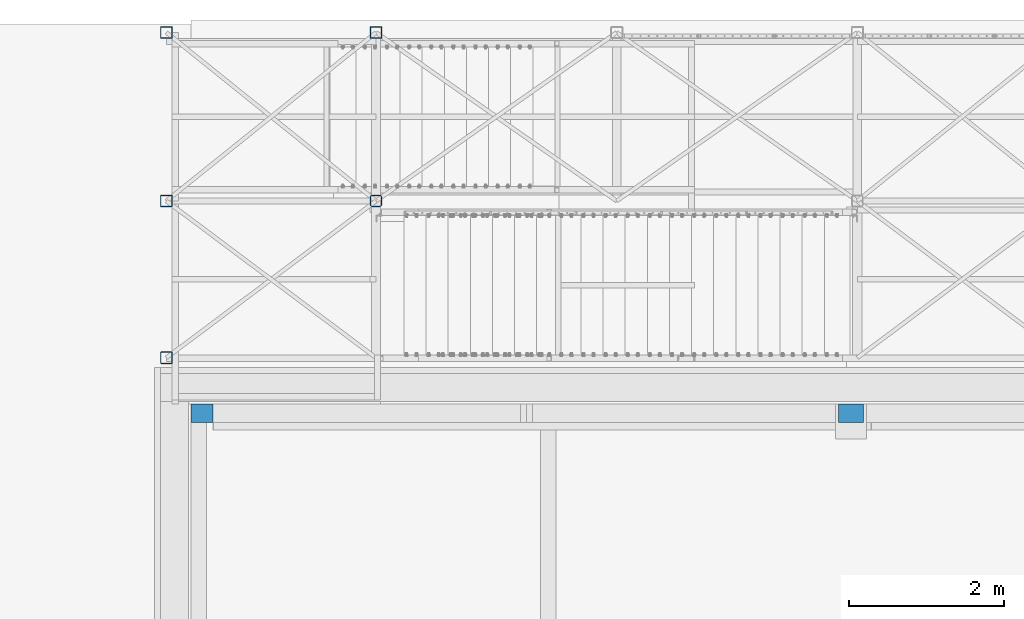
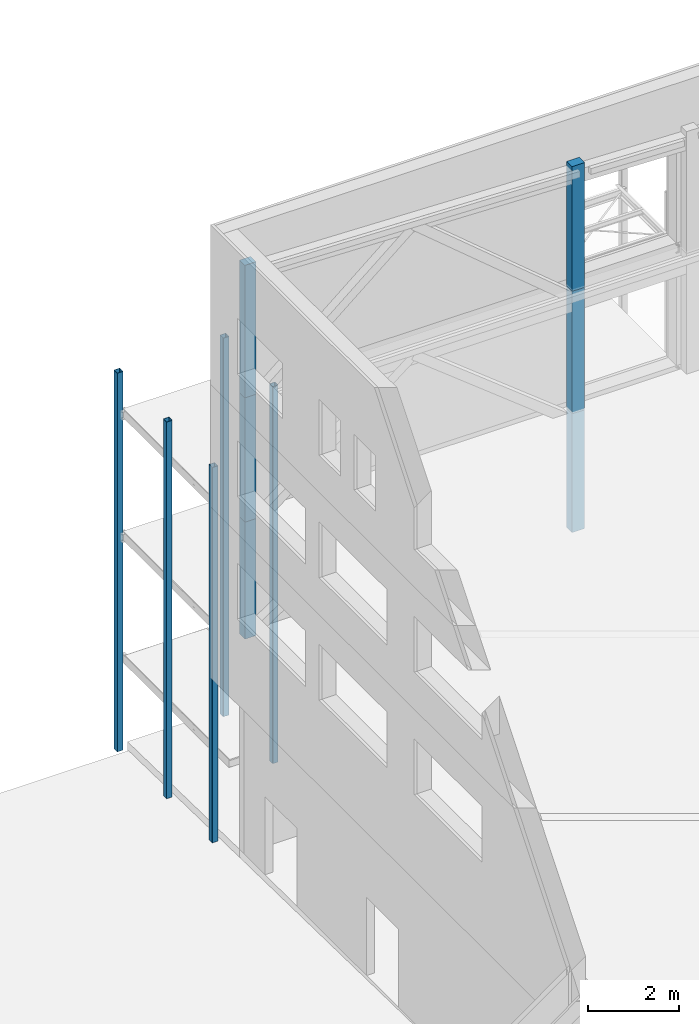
# One storey, part 9 of 78: 11 columns, 11 elements without a shape of their own.
"""IFC2X3 building model written with IfcOpenShell, lengths in millimetres."""

from ifc_helpers import new_model, si_unit, frame, origin_with_axes, origin_2d_with_axis, place, context, subcontext, project, spatial, rectangle, hollow_rectangle, extrude, material, type_object, element, aggregate, save


model = new_model("IFC2X3")

# Units and contexts
model_context = context("Model", 3, precision=1e-05, world=origin_with_axes())
body_context = subcontext(model_context, "Body", "Model", "MODEL_VIEW")
ifc_project = project(units=[si_unit("LENGTHUNIT", "METRE", prefix="MILLI"), si_unit("AREAUNIT", "SQUARE_METRE"), si_unit("VOLUMEUNIT", "CUBIC_METRE"), si_unit("MASSUNIT", "GRAM", prefix="KILO"), si_unit("TIMEUNIT", "SECOND"), si_unit("PLANEANGLEUNIT", "RADIAN"), si_unit("SOLIDANGLEUNIT", "STERADIAN"), si_unit("THERMODYNAMICTEMPERATUREUNIT", "DEGREE_CELSIUS"), si_unit("LUMINOUSINTENSITYUNIT", "LUMEN")], contexts=[model_context])

# Site, building, storey
site_placement = place(None, origin_with_axes())
site = spatial("IfcSite", under=ifc_project, at=site_placement, Name="Site", CompositionType="ELEMENT")
building_placement = place(site_placement, origin_with_axes())
building = spatial("IfcBuilding", under=site, at=building_placement, Name="Undefined", CompositionType="ELEMENT")
storey_placement = place(building_placement, origin_with_axes())
storey = spatial("IfcBuildingStorey", under=building, at=storey_placement, Name="Undefined", CompositionType="ELEMENT", Elevation=0.0)

# Assembly, column
assembly_1_placement = place(storey_placement, origin_with_axes())
assembly_1 = element("IfcElementAssembly", 1, at=assembly_1_placement, inside=storey, Name="POUTRE", AssemblyPlace="NOTDEFINED", PredefinedType="NOTDEFINED")
ifc_material_1 = material(Name="TIMBER/CHENE")
column_type_1 = type_object("IfcColumnType", Name="320*240", PredefinedType="NOTDEFINED")
column_1_placement = place(assembly_1_placement, frame((1416.56799316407, 28014.9986327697, 153350.039673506), z_axis=(0.0, 0.0, 1.0), x_axis=(-1.0, 0.0, 0.0)))
column_1 = element("IfcColumn", 2, at=column_1_placement, type_object=column_type_1, material=ifc_material_1, Name="POUTRE", ObjectType="320*240", context=body_context, shape_type="SweptSolid", body=[
    extrude(rectangle(XDim=240.0, YDim=320.0, at=origin_2d_with_axis()), frame((0.0, 0.0, 3199.98874114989), z_axis=(0.0, 0.0, -1.0), x_axis=(0.0, 1.0, 0.0)), (0.0, 0.0, 1.0), 3199.99),
])
aggregate(assembly_1, [column_1])

assembly_2_placement = place(storey_placement, origin_with_axes())
assembly_2 = element("IfcElementAssembly", 3, at=assembly_2_placement, inside=storey, Name="POUTRE", AssemblyPlace="NOTDEFINED", PredefinedType="NOTDEFINED")
column_2_placement = place(assembly_2_placement, frame((1416.56807422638, 28014.998550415, 156550.033569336), z_axis=(0.0, 0.0, 1.0), x_axis=(-1.0, 0.0, 0.0)))
column_2 = element("IfcColumn", 4, at=column_2_placement, type_object=column_type_1, material=ifc_material_1, Name="POUTRE", ObjectType="320*240", context=body_context, shape_type="SweptSolid", body=[
    extrude(rectangle(XDim=240.0, YDim=320.0, at=origin_2d_with_axis()), frame((0.0, 0.0, 3300.00874114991), z_axis=(0.0, 0.0, -1.0), x_axis=(0.0, 1.0, 0.0)), (0.0, 0.0, 1.0), 3300.01),
])
aggregate(assembly_2, [column_2])

assembly_3_placement = place(storey_placement, origin_with_axes())
assembly_3 = element("IfcElementAssembly", 5, at=assembly_3_placement, inside=storey, Name="POUTRE", AssemblyPlace="NOTDEFINED", PredefinedType="NOTDEFINED")
column_3_placement = place(assembly_3_placement, frame((1416.56799316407, 28014.9986327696, 159850.040150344), z_axis=(0.0, 0.0, 1.0), x_axis=(-1.0, 0.0, 0.0)))
column_3 = element("IfcColumn", 6, at=column_3_placement, type_object=column_type_1, material=ifc_material_1, Name="POUTRE", ObjectType="320*240", context=body_context, shape_type="SweptSolid", body=[
    extrude(rectangle(XDim=240.0, YDim=320.0, at=origin_2d_with_axis()), frame((0.0, 0.0, 3359.9987411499), z_axis=(0.0, 0.0, -1.0), x_axis=(0.0, 1.0, 0.0)), (0.0, 0.0, 1.0), 3360.0),
])
aggregate(assembly_3, [column_3])

assembly_4_placement = place(storey_placement, origin_with_axes())
assembly_4 = element("IfcElementAssembly", 7, at=assembly_4_placement, inside=storey, Name="POUTRE", AssemblyPlace="NOTDEFINED", PredefinedType="NOTDEFINED")
column_type_2 = type_object("IfcColumnType", Name="280*240", PredefinedType="NOTDEFINED")
column_4_placement = place(assembly_4_placement, frame((-6943.43215942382, 28014.9986327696, 153400.039864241), z_axis=(0.0, 0.0, 1.0), x_axis=(-1.0, 0.0, 0.0)))
column_4 = element("IfcColumn", 8, at=column_4_placement, type_object=column_type_2, material=ifc_material_1, Name="POUTRE", ObjectType="280*240", context=body_context, shape_type="SweptSolid", body=[
    extrude(rectangle(XDim=240.0, YDim=280.0, at=origin_2d_with_axis()), frame((0.0, 0.0, 3149.9987411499), z_axis=(0.0, 0.0, -1.0), x_axis=(0.0, 1.0, 0.0)), (0.0, 0.0, 1.0), 3150.0),
])
aggregate(assembly_4, [column_4])

assembly_5_placement = place(storey_placement, origin_with_axes())
assembly_5 = element("IfcElementAssembly", 9, at=assembly_5_placement, inside=storey, Name="POUTRE", AssemblyPlace="NOTDEFINED", PredefinedType="NOTDEFINED")
column_5_placement = place(assembly_5_placement, frame((-6943.43215942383, 28014.9986327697, 156550.039959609), z_axis=(0.0, 0.0, 1.0), x_axis=(-1.0, 0.0, 0.0)))
column_5 = element("IfcColumn", 10, at=column_5_placement, type_object=column_type_2, material=ifc_material_1, Name="POUTRE", ObjectType="280*240", context=body_context, shape_type="SweptSolid", body=[
    extrude(rectangle(XDim=240.0, YDim=280.0, at=origin_2d_with_axis()), frame((0.0, 0.0, 3349.9987411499), z_axis=(0.0, 0.0, -1.0), x_axis=(0.0, 1.0, 0.0)), (0.0, 0.0, 1.0), 3350.0),
])
aggregate(assembly_5, [column_5])

assembly_6_placement = place(storey_placement, origin_with_axes())
assembly_6 = element("IfcElementAssembly", 11, at=assembly_6_placement, inside=storey, Name="POUTRE", AssemblyPlace="NOTDEFINED", PredefinedType="NOTDEFINED")
column_6_placement = place(assembly_6_placement, frame((-6943.43215942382, 28014.9986327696, 159900.040341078), z_axis=(0.0, 0.0, 1.0), x_axis=(-1.0, 0.0, 0.0)))
column_6 = element("IfcColumn", 12, at=column_6_placement, type_object=column_type_2, material=ifc_material_1, Name="POUTRE", ObjectType="280*240", context=body_context, shape_type="SweptSolid", body=[
    extrude(rectangle(XDim=240.0, YDim=280.0, at=origin_2d_with_axis()), frame((0.0, 0.0, 3569.9987411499), z_axis=(0.0, 0.0, -1.0), x_axis=(0.0, 1.0, 0.0)), (0.0, 0.0, 1.0), 3570.0),
])
aggregate(assembly_6, [column_6])

assembly_7_placement = place(storey_placement, origin_with_axes())
assembly_7 = element("IfcElementAssembly", 13, at=assembly_7_placement, inside=storey, Name="POTEAU", AssemblyPlace="NOTDEFINED", PredefinedType="RIGID_FRAME")
ifc_material_2 = material(Name="STEEL/S275JR")
column_type_3 = type_object("IfcColumnType", Name="TUBE-C-150*150*5", PredefinedType="NOTDEFINED")
column_7_placement = place(assembly_7_placement, frame((-4701.43, 32918.0, 147500.04), z_axis=(0.0, 0.0, 1.0), x_axis=(0.0, 1.0, 0.0)))
column_7 = element("IfcColumn", 14, at=column_7_placement, type_object=column_type_3, material=ifc_material_2, Name="POTEAU", ObjectType="TUBE-C-150*150*5", context=body_context, shape_type="SweptSolid", body=[
    extrude(hollow_rectangle(XDim=150.0, YDim=150.0, WallThickness=5.0, InnerFilletRadius=5.0, OuterFilletRadius=10.0, at=origin_2d_with_axis()), frame((0.0, 0.0, 10200.0), z_axis=(0.0, 0.0, -1.0), x_axis=(0.0, 1.0, 0.0)), (0.0, 0.0, 1.0), 10200.0),
])
aggregate(assembly_7, [column_7])

assembly_8_placement = place(storey_placement, origin_with_axes())
assembly_8 = element("IfcElementAssembly", 15, at=assembly_8_placement, inside=storey, Name="POTEAU", AssemblyPlace="NOTDEFINED", PredefinedType="RIGID_FRAME")
column_8_placement = place(assembly_8_placement, frame((-7401.43, 32918.0, 147500.04), z_axis=(0.0, 0.0, 1.0), x_axis=(0.0, 1.0, 0.0)))
column_8 = element("IfcColumn", 16, at=column_8_placement, type_object=column_type_3, material=ifc_material_2, Name="POTEAU", ObjectType="TUBE-C-150*150*5", context=body_context, shape_type="SweptSolid", body=[
    extrude(hollow_rectangle(XDim=150.0, YDim=150.0, WallThickness=5.0, InnerFilletRadius=5.0, OuterFilletRadius=10.0, at=origin_2d_with_axis()), frame((0.0, 0.0, 10200.0), z_axis=(0.0, 0.0, -1.0), x_axis=(0.0, 1.0, 0.0)), (0.0, 0.0, 1.0), 10200.0),
])
aggregate(assembly_8, [column_8])

assembly_9_placement = place(storey_placement, origin_with_axes())
assembly_9 = element("IfcElementAssembly", 17, at=assembly_9_placement, inside=storey, Name="POTEAU", AssemblyPlace="NOTDEFINED", PredefinedType="RIGID_FRAME")
column_9_placement = place(assembly_9_placement, frame((-7401.43, 30748.0, 147550.04), z_axis=(0.0, 0.0, 1.0), x_axis=(0.0, 1.0, 0.0)))
column_9 = element("IfcColumn", 18, at=column_9_placement, type_object=column_type_3, material=ifc_material_2, Name="POTEAU", ObjectType="TUBE-C-150*150*5", context=body_context, shape_type="SweptSolid", body=[
    extrude(hollow_rectangle(XDim=150.0, YDim=150.0, WallThickness=5.0, InnerFilletRadius=5.0, OuterFilletRadius=10.0, at=origin_2d_with_axis()), frame((0.0, 0.0, 10150.0), z_axis=(0.0, 0.0, -1.0), x_axis=(0.0, 1.0, 0.0)), (0.0, 0.0, 1.0), 10150.0),
])
aggregate(assembly_9, [column_9])

assembly_10_placement = place(storey_placement, origin_with_axes())
assembly_10 = element("IfcElementAssembly", 19, at=assembly_10_placement, inside=storey, Name="POTEAU", AssemblyPlace="NOTDEFINED", PredefinedType="RIGID_FRAME")
column_10_placement = place(assembly_10_placement, frame((-7401.43, 28728.0, 147590.04), z_axis=(0.0, 0.0, 1.0), x_axis=(0.0, 1.0, 0.0)))
column_10 = element("IfcColumn", 20, at=column_10_placement, type_object=column_type_3, material=ifc_material_2, Name="POTEAU", ObjectType="TUBE-C-150*150*5", context=body_context, shape_type="SweptSolid", body=[
    extrude(hollow_rectangle(XDim=150.0, YDim=150.0, WallThickness=5.0, InnerFilletRadius=5.0, OuterFilletRadius=10.0, at=origin_2d_with_axis()), frame((0.0, 0.0, 10110.0), z_axis=(0.0, 0.0, -1.0), x_axis=(0.0, 1.0, 0.0)), (0.0, 0.0, 1.0), 10110.0),
])
aggregate(assembly_10, [column_10])

assembly_11_placement = place(storey_placement, origin_with_axes())
assembly_11 = element("IfcElementAssembly", 21, at=assembly_11_placement, inside=storey, Name="POTEAU", AssemblyPlace="NOTDEFINED", PredefinedType="RIGID_FRAME")
column_type_4 = type_object("IfcColumnType", Name="TUBE-C-150*150*10", PredefinedType="NOTDEFINED")
column_11_placement = place(assembly_11_placement, frame((-4701.43, 30748.0, 147550.04), z_axis=(0.0, 0.0, 1.0), x_axis=(0.0, 1.0, 0.0)))
column_11 = element("IfcColumn", 22, at=column_11_placement, type_object=column_type_4, material=ifc_material_2, Name="POTEAU", ObjectType="TUBE-C-150*150*10", context=body_context, shape_type="SweptSolid", body=[
    extrude(hollow_rectangle(XDim=150.0, YDim=150.0, WallThickness=10.0, InnerFilletRadius=15.0, OuterFilletRadius=25.0, at=origin_2d_with_axis()), frame((0.0, 0.0, 10150.0), z_axis=(0.0, 0.0, -1.0), x_axis=(0.0, 1.0, 0.0)), (0.0, 0.0, 1.0), 10150.0),
])
aggregate(assembly_11, [column_11])

save(model, "model.ifc")
